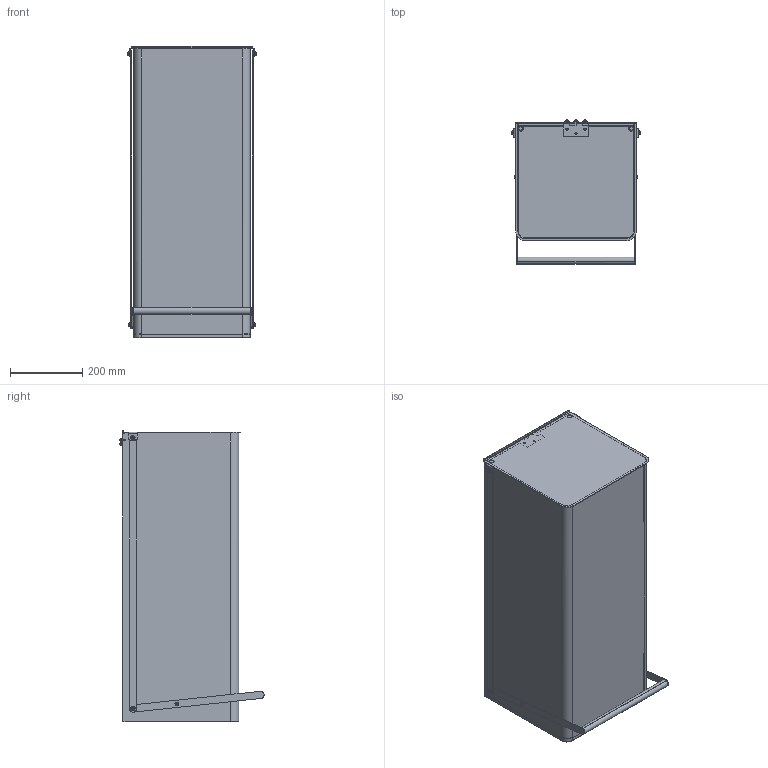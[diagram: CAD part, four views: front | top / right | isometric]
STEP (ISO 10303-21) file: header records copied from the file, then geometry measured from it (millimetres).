
FILE_DESCRIPTION(/* description */ (''),/* implementation_level */ '2;1');
FILE_NAME(/* name */ 'NEST_8~1',/* time_stamp */ '2020-09-02T13:41:00+02:00',/* author */ (''),/* organization */ (''),/* preprocessor_version */ 'ST-DEVELOPER v16.5',/* originating_system */ '',/* authorisation */ '');
FILE_SCHEMA (('AUTOMOTIVE_DESIGN'));
Length unit declared in the file: millimetre
Products named in the file (21): Document; NEST_800_000; 3205512; NEST_000_008; plain washer grade a_din_Washer DIN 125 - A 4.3; NEST_000_101; hex flange nut_din_Hexagon Flange Nut DIN 6923 - M5 - N; NEST_800_003; socket head cap screw_din_DIN 912 M5 x 12 --- 12N; socket head cap screw_din_DIN 912 M5 x 16 --- 16N; plain washer grade a_din_Washer DIN 125 - A 5.3; NEST_800_001; 15CHM4-08; NEST_000_009; NEST_800_002; NEST_000_004; 05TF30FRFI_FIXOR; NEST_000_015; NEST_000_006; domed cap nut_din_DIN 1587 - M4 --NNU; NEST_000_002
Assembly tree (59 placements, depth 3):
  Document
    NEST_800_000
      3205512  x2
      NEST_000_008
      plain washer grade a_din_Washer DIN 125 - A 4.3  x3
      NEST_000_101
      hex flange nut_din_Hexagon Flange Nut DIN 6923 - M5 - N  x9
      NEST_800_003  x2
      socket head cap screw_din_DIN 912 M5 x 12 --- 12N  x6
      socket head cap screw_din_DIN 912 M5 x 16 --- 16N
      plain washer grade a_din_Washer DIN 125 - A 5.3  x16
      NEST_800_001
      15CHM4-08  x3
      NEST_000_009
      NEST_800_002
      NEST_000_004
      05TF30FRFI_FIXOR  x2
      NEST_000_015
      NEST_000_006  x2
      domed cap nut_din_DIN 1587 - M4 --NNU  x3
      NEST_000_002  x2
Bounding box: 357 x 399.17 x 808 mm (x, y, z)
Volume: 2157349.3 mm3; surface area: 2729666.7 mm2
Topology: 58 solids, 58 shells, 1161 faces, 2578 edges, 1527 vertices
Faces by surface type: bspline 683, plane 478
Entity records: 18427 total; most frequent: CARTESIAN_POINT 10110, ORIENTED_EDGE 2328, EDGE_CURVE 1164, B_SPLINE_CURVE_WITH_KNOTS 739, VERTEX_POINT 700, EDGE_LOOP 584, ADVANCED_FACE 509, FACE_OUTER_BOUND 509
